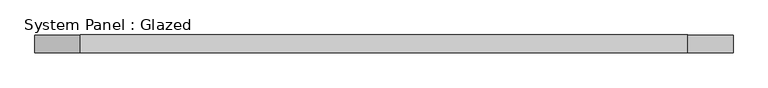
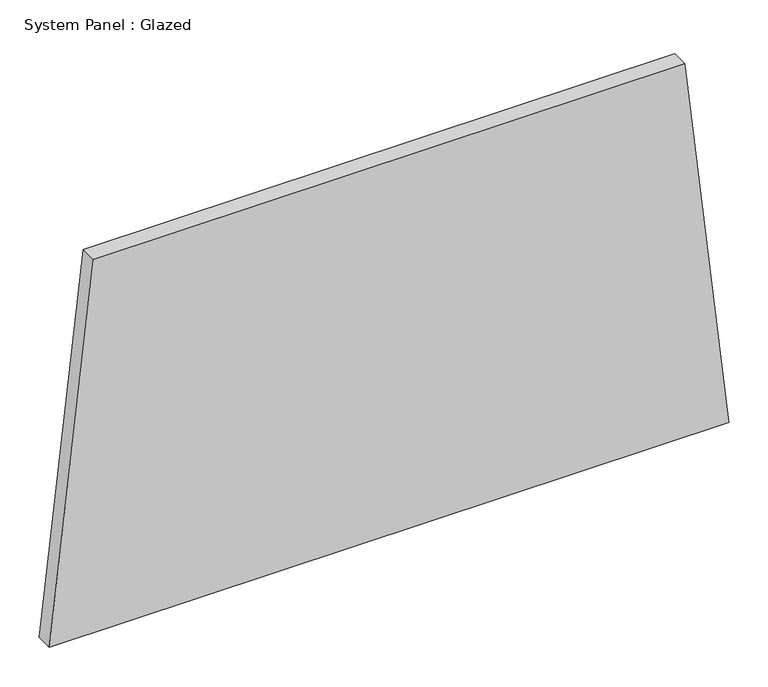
"""IFC4 building model written with IfcOpenShell, lengths in millimetres: plate geometry, System Panel : Glazed."""

from ifc_helpers import new_model, si_unit, frame, origin, place, context, project, spatial, polyline, outline, extrude, source, transform, mapped, element, save


def system_panel_glazed_84bc3224(model_context):
    return source(origin(), model_context, "Body", "SweptSolid", [
        extrude(outline(polyline([(0.0, -499.0881439), (0.0, 499.0881439), (580.4357246, 434.2835265), (580.4357246, -434.2835265), (0.0, -499.0881439)])), frame((0.0, -44.45, 0.0), z_axis=(0.0, 1.0, 0.0), x_axis=(0.0, 0.0, 1.0)), (0.0, 0.0, 1.0), 25.4),
    ])


if __name__ == "__main__":
    model = new_model("IFC4")
    model_context = context("Model", 3, world=origin())
    ifc_project = project(units=[si_unit("LENGTHUNIT", "METRE", prefix="MILLI")], contexts=[model_context])
    site = spatial("IfcSite", under=ifc_project)
    building = spatial("IfcBuilding", under=site)
    placement = place(None, origin())
    system_panel_glazed_shape = system_panel_glazed_84bc3224(model_context)
    element("IfcPlate", 1, ObjectType="System Panel : Glazed", at=placement, inside=building, context=model_context, shape_type="MappedRepresentation", body=[
        mapped(system_panel_glazed_shape, transform((0.0, 0.0, 0.0), x_axis=(1.0, 0.0, 0.0), y_axis=(0.0, 1.0, 0.0), z_axis=(0.0, 0.0, 1.0))),
    ])
    save(model, "model.ifc")
